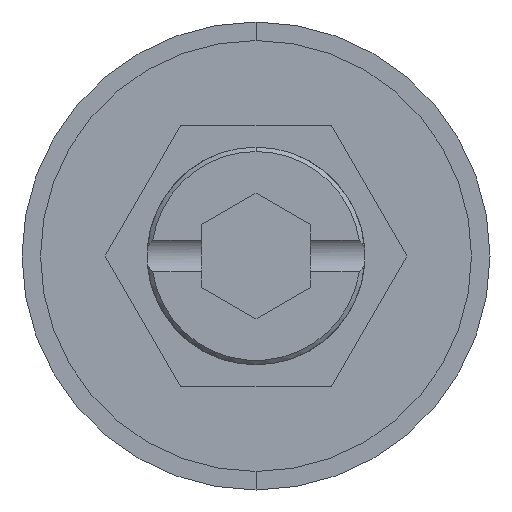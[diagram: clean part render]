
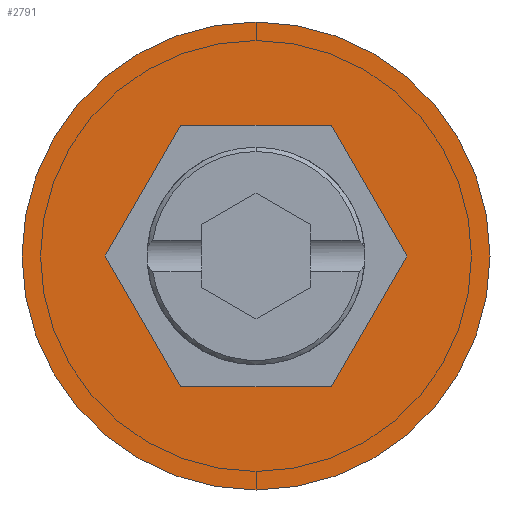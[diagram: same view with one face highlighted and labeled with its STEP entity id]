
A CAD part, front view. The second image highlights one B-rep face of the part: STEP entity #2791.
In plain terms, the highlighted planar face has unit normal (0, -1, 0).
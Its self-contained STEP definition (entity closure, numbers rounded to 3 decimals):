
#69 = ORIENTED_EDGE ( 'NONE', *, *, #2472, .F. ) ;
#140 = CARTESIAN_POINT ( 'NONE',  ( 3.464, 0., -6. ) ) ;
#209 = CARTESIAN_POINT ( 'NONE',  ( 3.464, 0., -6. ) ) ;
#226 = DIRECTION ( 'NONE',  ( -0.5, 0., -0.866 ) ) ;
#269 = EDGE_CURVE ( 'NONE', #3579, #747, #1118, .T. ) ;
#329 = EDGE_CURVE ( 'NONE', #389, #3579, #2677, .T. ) ;
#338 = DIRECTION ( 'NONE',  ( 0.5, 0., 0.866 ) ) ;
#359 = PLANE ( 'NONE',  #2511 ) ;
#389 = VERTEX_POINT ( 'NONE', #2464 ) ;
#406 = VERTEX_POINT ( 'NONE', #3802 ) ;
#434 = CARTESIAN_POINT ( 'NONE',  ( 3.464, 0., 6. ) ) ;
#508 = CARTESIAN_POINT ( 'NONE',  ( 6.928, 0., 0. ) ) ;
#559 = VECTOR ( 'NONE', #2543, 1000. ) ;
#569 = EDGE_CURVE ( 'NONE', #3601, #3199, #1468, .T. ) ;
#585 = DIRECTION ( 'NONE',  ( 1., 0., 0. ) ) ;
#684 = CARTESIAN_POINT ( 'NONE',  ( 0., 0., 0. ) ) ;
#693 = EDGE_CURVE ( 'NONE', #3199, #960, #1061, .T. ) ;
#747 = VERTEX_POINT ( 'NONE', #3035 ) ;
#818 = CIRCLE ( 'NONE', #1403, 10.75 ) ;
#840 = ORIENTED_EDGE ( 'NONE', *, *, #693, .F. ) ;
#876 = VECTOR ( 'NONE', #1169, 1000. ) ;
#879 = DIRECTION ( 'NONE',  ( 0., -1., 0. ) ) ;
#906 = DIRECTION ( 'NONE',  ( -1., 0., 0. ) ) ;
#960 = VERTEX_POINT ( 'NONE', #2167 ) ;
#1008 = CARTESIAN_POINT ( 'NONE',  ( -3.464, 0., -6. ) ) ;
#1061 = LINE ( 'NONE', #3392, #2621 ) ;
#1118 = LINE ( 'NONE', #140, #1937 ) ;
#1169 = DIRECTION ( 'NONE',  ( -0.5, 0., 0.866 ) ) ;
#1183 = VERTEX_POINT ( 'NONE', #3556 ) ;
#1185 = LINE ( 'NONE', #508, #876 ) ;
#1187 = EDGE_LOOP ( 'NONE', ( #3444, #2144 ) ) ;
#1225 = FACE_OUTER_BOUND ( 'NONE', #1187, .T. ) ;
#1242 = VECTOR ( 'NONE', #906, 1000. ) ;
#1403 = AXIS2_PLACEMENT_3D ( 'NONE', #3687, #1809, #4024 ) ;
#1468 = LINE ( 'NONE', #434, #1242 ) ;
#1662 = DIRECTION ( 'NONE',  ( 0., 0., -1. ) ) ;
#1809 = DIRECTION ( 'NONE',  ( 0., -1., 0. ) ) ;
#1937 = VECTOR ( 'NONE', #338, 1000. ) ;
#2070 = FACE_BOUND ( 'NONE', #2894, .T. ) ;
#2144 = ORIENTED_EDGE ( 'NONE', *, *, #4132, .T. ) ;
#2167 = CARTESIAN_POINT ( 'NONE',  ( -6.928, 0., 0. ) ) ;
#2237 = CARTESIAN_POINT ( 'NONE',  ( -6.928, 0., 0. ) ) ;
#2409 = ORIENTED_EDGE ( 'NONE', *, *, #2682, .F. ) ;
#2464 = CARTESIAN_POINT ( 'NONE',  ( -3.464, 0., -6. ) ) ;
#2472 = EDGE_CURVE ( 'NONE', #747, #3601, #1185, .T. ) ;
#2511 = AXIS2_PLACEMENT_3D ( 'NONE', #684, #3541, #1662 ) ;
#2543 = DIRECTION ( 'NONE',  ( 0.5, 0., -0.866 ) ) ;
#2605 = ORIENTED_EDGE ( 'NONE', *, *, #269, .F. ) ;
#2621 = VECTOR ( 'NONE', #226, 1000. ) ;
#2676 = CARTESIAN_POINT ( 'NONE',  ( -3.464, 0., 6. ) ) ;
#2677 = LINE ( 'NONE', #1008, #3414 ) ;
#2682 = EDGE_CURVE ( 'NONE', #960, #389, #3090, .T. ) ;
#2753 = CARTESIAN_POINT ( 'NONE',  ( 0., 0., 0. ) ) ;
#2765 = CARTESIAN_POINT ( 'NONE',  ( 3.464, 0., 6. ) ) ;
#2791 = ADVANCED_FACE ( 'NONE', ( #2070, #1225 ), #359, .T. ) ;
#2894 = EDGE_LOOP ( 'NONE', ( #4016, #2409, #840, #3349, #69, #2605 ) ) ;
#3035 = CARTESIAN_POINT ( 'NONE',  ( 6.928, 0., 0. ) ) ;
#3077 = DIRECTION ( 'NONE',  ( 0., 0., -1. ) ) ;
#3090 = LINE ( 'NONE', #2237, #559 ) ;
#3174 = CIRCLE ( 'NONE', #3300, 10.75 ) ;
#3199 = VERTEX_POINT ( 'NONE', #2676 ) ;
#3300 = AXIS2_PLACEMENT_3D ( 'NONE', #2753, #879, #3077 ) ;
#3349 = ORIENTED_EDGE ( 'NONE', *, *, #569, .F. ) ;
#3392 = CARTESIAN_POINT ( 'NONE',  ( -3.464, 0., 6. ) ) ;
#3414 = VECTOR ( 'NONE', #585, 1000. ) ;
#3444 = ORIENTED_EDGE ( 'NONE', *, *, #3528, .T. ) ;
#3528 = EDGE_CURVE ( 'NONE', #1183, #406, #3174, .T. ) ;
#3541 = DIRECTION ( 'NONE',  ( 0., -1., 0. ) ) ;
#3556 = CARTESIAN_POINT ( 'NONE',  ( 0., 0., -10.75 ) ) ;
#3579 = VERTEX_POINT ( 'NONE', #209 ) ;
#3601 = VERTEX_POINT ( 'NONE', #2765 ) ;
#3687 = CARTESIAN_POINT ( 'NONE',  ( 0., 0., 0. ) ) ;
#3802 = CARTESIAN_POINT ( 'NONE',  ( 0., 0., 10.75 ) ) ;
#4016 = ORIENTED_EDGE ( 'NONE', *, *, #329, .F. ) ;
#4024 = DIRECTION ( 'NONE',  ( 0., 0., -1. ) ) ;
#4132 = EDGE_CURVE ( 'NONE', #406, #1183, #818, .T. ) ;
